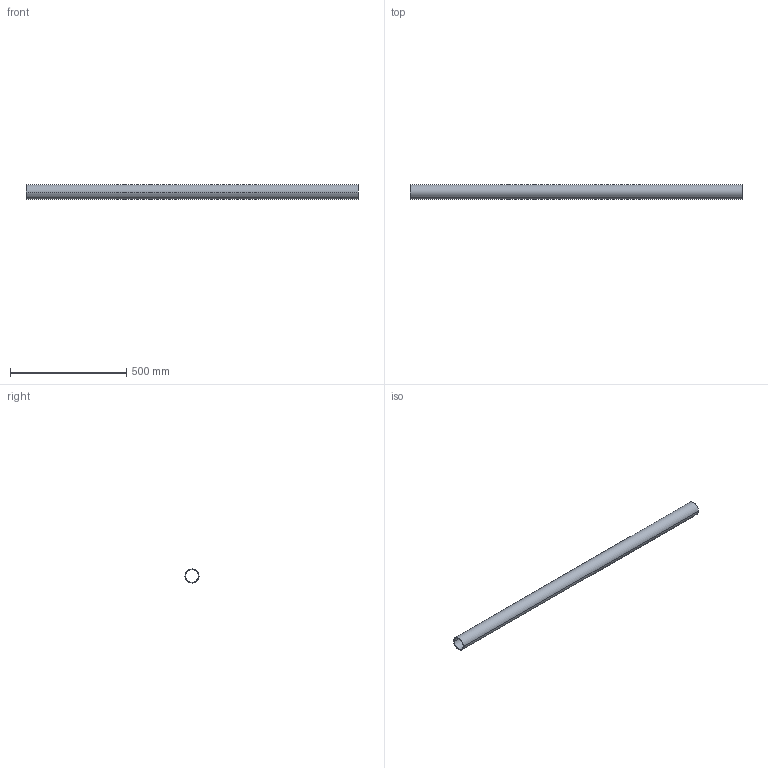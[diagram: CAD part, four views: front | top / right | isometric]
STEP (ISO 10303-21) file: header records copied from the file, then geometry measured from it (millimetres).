
FILE_DESCRIPTION(/* description */ ('(C) Elphel, Inc. 2012. Licensed under CERN OHL v.1.1 or later, see http://ohwr.org/cernohl'),/* implementation_level */ '2;1');
FILE_NAME(/* name */ '0353-25-02',/* time_stamp */ '2012-06-09T01:21:55-06:00',/* author */ (''),/* organization */ ('Elphel, Inc'),/* preprocessor_version */ 'ST-DEVELOPER v12',/* originating_system */ 'VariCAD 2012-1.04; kernel version (20100102)',/* authorisation */ '');
FILE_SCHEMA (('AUTOMOTIVE_DESIGN'));
Length unit declared in the file: millimetre
Products named in the file (1): Part
Bounding box: 1427 x 60.33 x 60.33 mm (x, y, z)
Volume: 714008.4 mm3; surface area: 516977.7 mm2
Topology: 1 solids, 1 shells, 10 faces, 24 edges, 16 vertices
Faces by surface type: cylinder 8, plane 2
Entity records: 473 total; most frequent: CARTESIAN_POINT 206, ORIENTED_EDGE 48, DIRECTION 48, EDGE_CURVE 24, AXIS2_PLACEMENT_3D 20, EDGE_LOOP 16, VERTEX_POINT 16, ADVANCED_FACE 10
